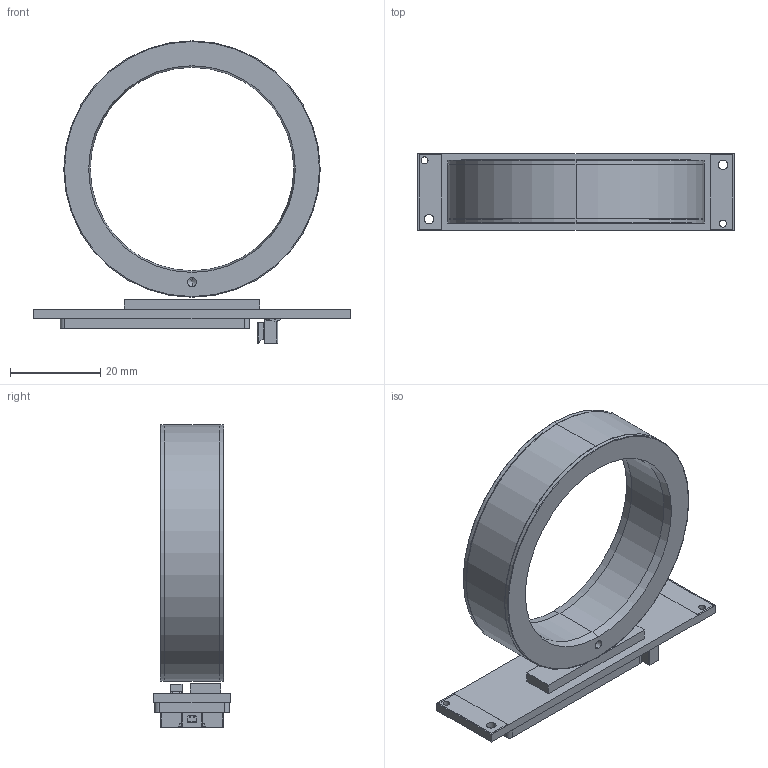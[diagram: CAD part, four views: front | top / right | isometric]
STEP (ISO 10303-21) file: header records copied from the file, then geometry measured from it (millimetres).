
FILE_DESCRIPTION (( 'STEP AP214' ), '1' );
FILE_NAME ('DBRxVx_SAR057_exposed.STEP', '2024-02-02T11:44:06', ( '' ), ( '' ), 'SwSTEP 2.0', 'SolidWorks 2022', '' );
FILE_SCHEMA (( 'AUTOMOTIVE_DESIGN' ));
Length unit declared in the file: millimetre
Products named in the file (1): DBRxVx_SAR057_exposed
Bounding box: 70 x 17 x 66.84 mm (x, y, z)
Volume: 17504.3 mm3; surface area: 10207.1 mm2
Topology: 2 solids, 2 shells, 1645 faces, 4531 edges, 3017 vertices
Faces by surface type: plane 1320, bspline 202, cylinder 95, cone 16, torus 8, sphere 4
Entity records: 80952 total; most frequent: CARTESIAN_POINT 26057, ORIENTED_EDGE 9052, DIRECTION 5150, EDGE_CURVE 4526, VERTEX_POINT 3017, B_SPLINE_CURVE_WITH_KNOTS 2364, VECTOR 2062, LINE 2062
